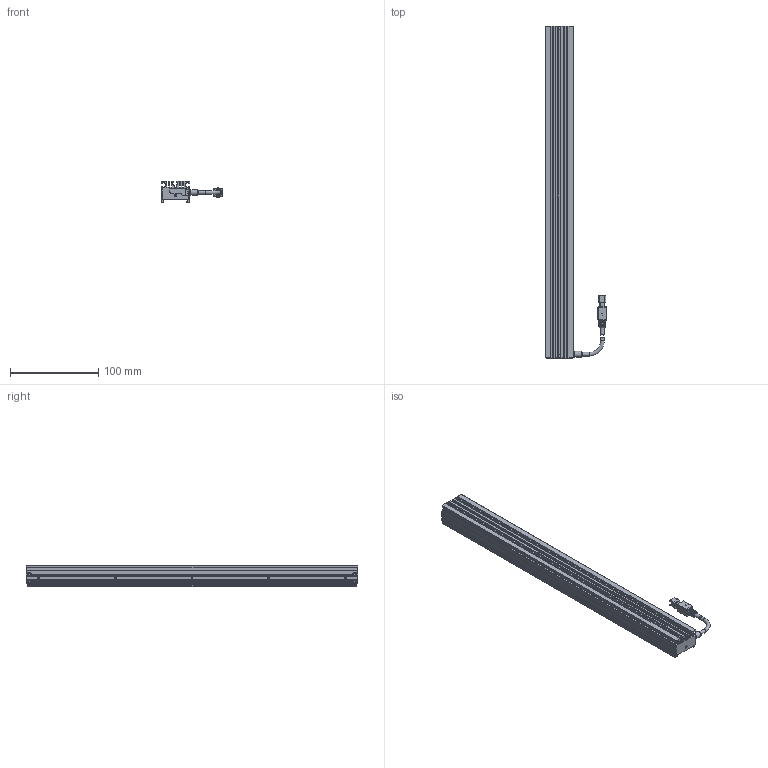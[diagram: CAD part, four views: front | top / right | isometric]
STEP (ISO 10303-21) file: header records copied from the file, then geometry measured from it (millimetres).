
FILE_DESCRIPTION (( 'STEP AP203' ), '1' );
FILE_NAME ('OPT-ULI37632-UV-V1.0尨砩芞.STEP', '2024-12-11T02:54:44', ( '' ), ( '' ), 'SwSTEP 2.0', 'SolidWorks 2016', '' );
FILE_SCHEMA (( 'CONFIG_CONTROL_DESIGN' ));
Length unit declared in the file: millimetre
Products named in the file (1): OPT-ULI37632-UV-V1.0尨砩芞
Bounding box: 69.6 x 376 x 24 mm (x, y, z)
Volume: 205763.2 mm3; surface area: 91726.6 mm2
Topology: 5 solids, 13 shells, 580 faces, 1500 edges, 966 vertices
Faces by surface type: plane 395, cylinder 132, cone 28, bspline 17, torus 8
Full cylindrical faces by diameter (mm): 1.1 x2, 1.4 x2, 1.6 x7, 2 x17, 2.4 x7, 2.5 x2, 3 x2, 4.1 x4, 6.5 x1, 7 x1, 7.5 x1
Entity records: 17727 total; most frequent: CARTESIAN_POINT 4076, ORIENTED_EDGE 2792, DIRECTION 2705, EDGE_CURVE 1396, VECTOR 959, LINE 959, VERTEX_POINT 936, AXIS2_PLACEMENT_3D 873
